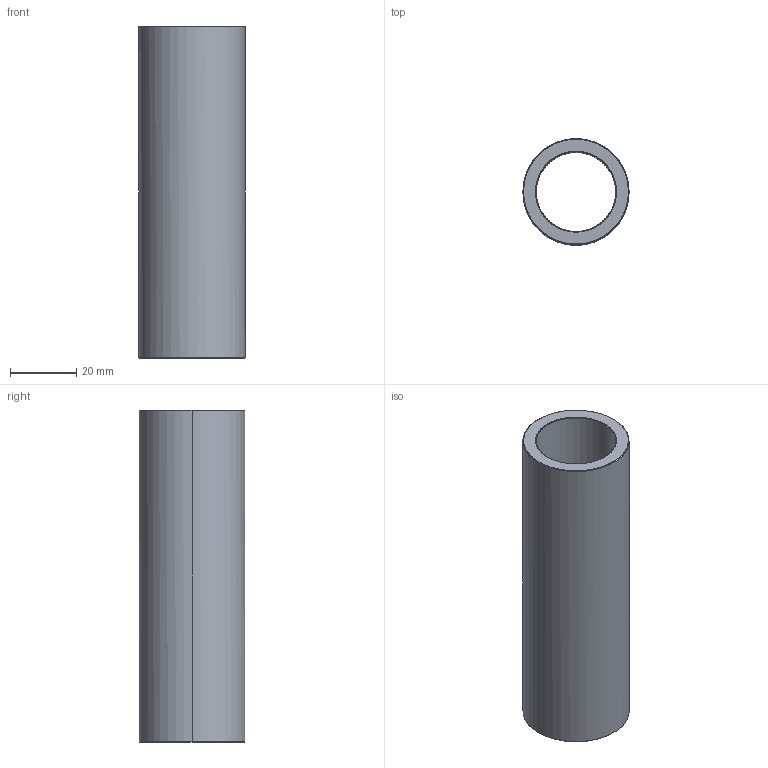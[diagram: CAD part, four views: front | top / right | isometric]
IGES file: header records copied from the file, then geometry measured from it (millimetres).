
Start section: Write IGES format                                    datakit 2008 (c)
Global section: file name: Unknown; native system: DATAKIT Converter; preprocessor: Unknown; author: Unknown; organization: Unknown; date: 950613.180003; units: millimetre
Bounding box: 32 x 31.93 x 100 mm (x, y, z)
Surface area: 18255.4 mm2 (no closed solid volume)
Topology: 0 solids, 0 shells, 14 faces, 56 edges, 56 vertices
Faces by surface type: revolution 12, bspline 2
